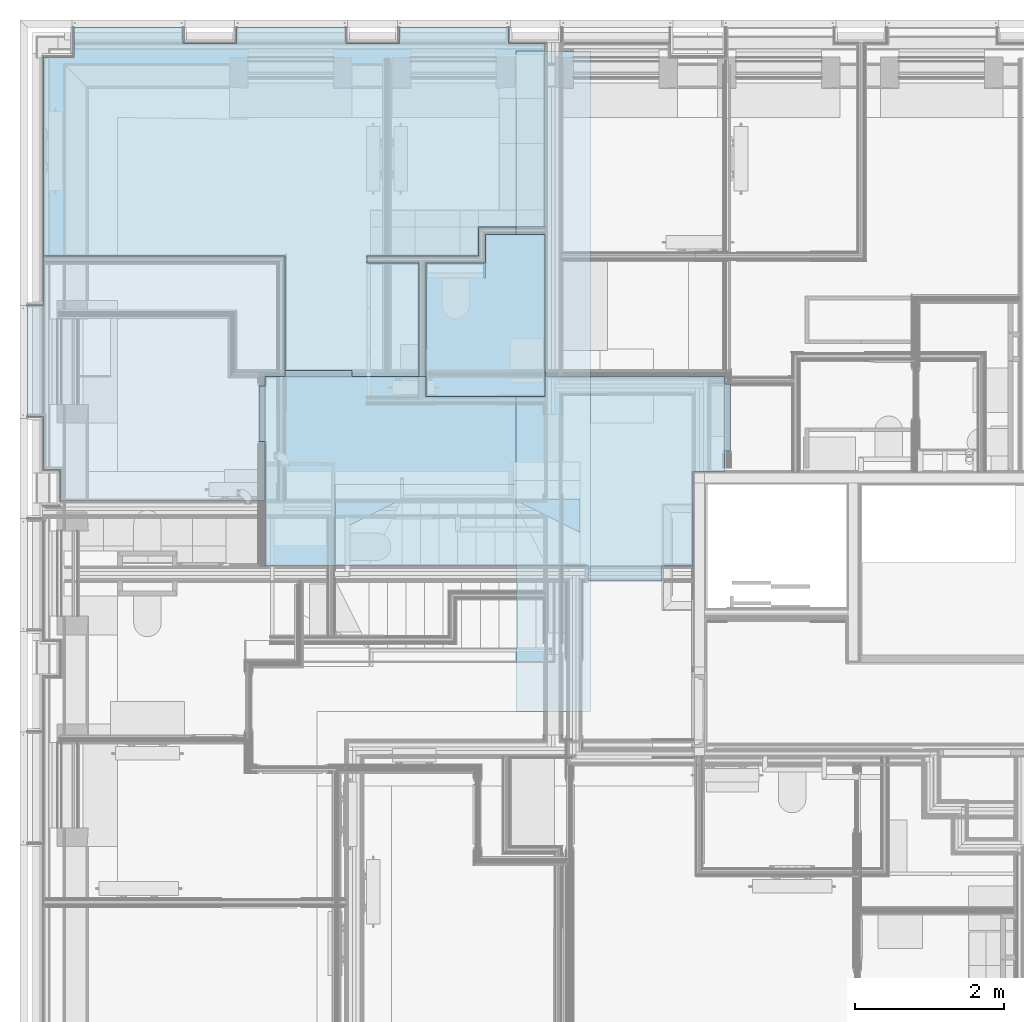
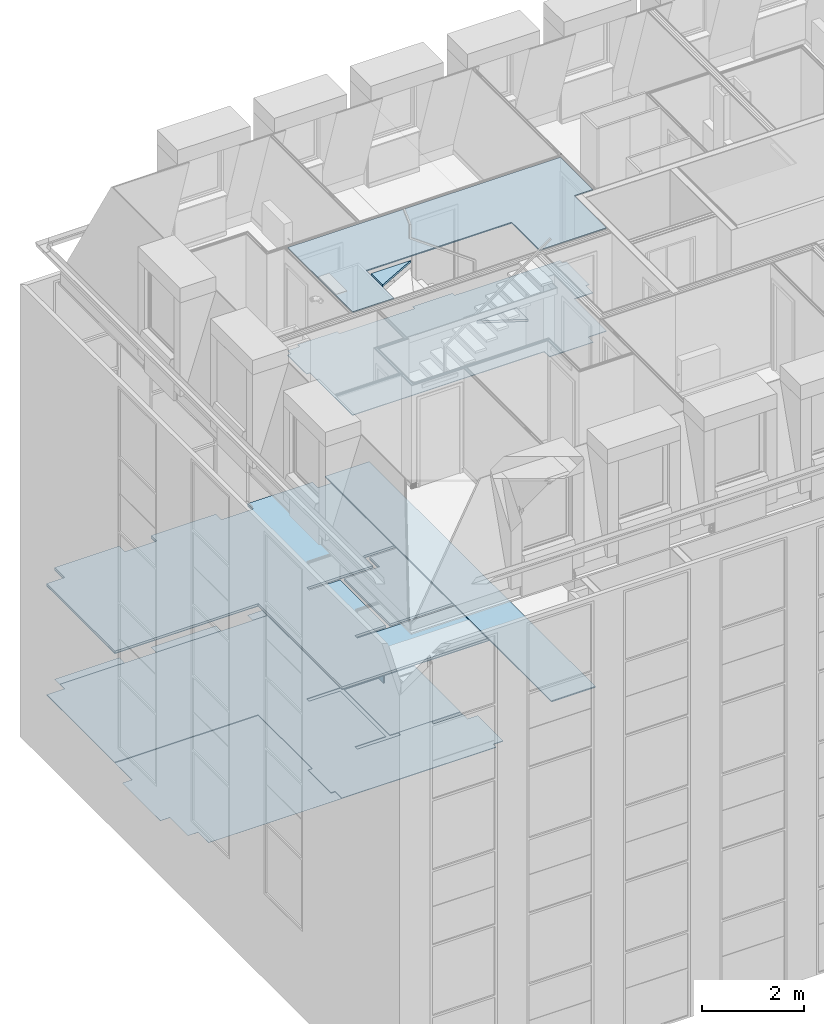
# One storey, part 73 of 169: 16 slabs.
"""IFC2X3 building model written with IfcOpenShell, lengths in metres."""

from ifc_helpers import new_model, entity, si_unit, converted_unit, derived_unit, money_unit, direction, frame, origin_with_axes, place, context, subcontext, project, spatial, faceted_brep, material, type_object, element, save


model = new_model("IFC2X3")

# Units and contexts
model_context = context("Model", 3, precision=1e-05, world=origin_with_axes(), true_north=direction((0.0, 1.0)))
body_context = subcontext(model_context, "Body", "Model", "MODEL_VIEW", scale=1.0)
ifc_project = project(units=[si_unit("LENGTHUNIT", "METRE"), si_unit("AREAUNIT", "SQUARE_METRE"), si_unit("VOLUMEUNIT", "CUBIC_METRE"), si_unit("ABSORBEDDOSEUNIT", "GRAY"), si_unit("AMOUNTOFSUBSTANCEUNIT", "MOLE"), si_unit("DOSEEQUIVALENTUNIT", "SIEVERT"), si_unit("ELECTRICCAPACITANCEUNIT", "FARAD"), si_unit("ELECTRICCHARGEUNIT", "COULOMB"), si_unit("ELECTRICCONDUCTANCEUNIT", "SIEMENS"), si_unit("ELECTRICCURRENTUNIT", "AMPERE"), si_unit("ELECTRICRESISTANCEUNIT", "OHM"), si_unit("ELECTRICVOLTAGEUNIT", "VOLT"), si_unit("ENERGYUNIT", "JOULE"), si_unit("FORCEUNIT", "NEWTON"), si_unit("FREQUENCYUNIT", "HERTZ"), si_unit("ILLUMINANCEUNIT", "LUX"), si_unit("INDUCTANCEUNIT", "HENRY"), si_unit("LUMINOUSFLUXUNIT", "LUMEN"), si_unit("LUMINOUSINTENSITYUNIT", "CANDELA"), si_unit("MAGNETICFLUXDENSITYUNIT", "TESLA"), si_unit("MAGNETICFLUXUNIT", "WEBER"), si_unit("MASSUNIT", "GRAM"), converted_unit("PLANEANGLEUNIT", "degree", entity("IfcReal", 0.0174532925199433), si_unit("PLANEANGLEUNIT", "RADIAN"), dimensions=[0, 0, 0, 0, 0, 0, 0]), si_unit("POWERUNIT", "WATT"), si_unit("PRESSUREUNIT", "PASCAL"), si_unit("RADIOACTIVITYUNIT", "BECQUEREL"), si_unit("SOLIDANGLEUNIT", "STERADIAN"), si_unit("THERMODYNAMICTEMPERATUREUNIT", "KELVIN"), si_unit("TIMEUNIT", "SECOND"), derived_unit("ACCELERATIONUNIT", [(si_unit("LENGTHUNIT", "METRE"), 1), (si_unit("TIMEUNIT", "SECOND"), -2)]), derived_unit("ANGULARVELOCITYUNIT", [(converted_unit("PLANEANGLEUNIT", "degree", entity("IfcReal", 0.0174532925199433), si_unit("PLANEANGLEUNIT", "RADIAN"), dimensions=[0, 0, 0, 0, 0, 0, 0]), 1), (si_unit("TIMEUNIT", "SECOND"), -1)]), derived_unit("CURVATUREUNIT", [(converted_unit("PLANEANGLEUNIT", "degree", entity("IfcReal", 0.0174532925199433), si_unit("PLANEANGLEUNIT", "RADIAN"), dimensions=[0, 0, 0, 0, 0, 0, 0]), 1), (si_unit("LENGTHUNIT", "METRE"), -1)]), derived_unit("DYNAMICVISCOSITYUNIT", [(si_unit("PRESSUREUNIT", "PASCAL"), 1), (si_unit("TIMEUNIT", "SECOND"), 1)]), derived_unit("HEATFLUXDENSITYUNIT", [(si_unit("POWERUNIT", "WATT"), 1), (si_unit("LENGTHUNIT", "METRE"), -2)]), derived_unit("HEATINGVALUEUNIT", [(si_unit("ENERGYUNIT", "JOULE"), 1), (si_unit("MASSUNIT", "GRAM"), -1)]), derived_unit("INTEGERCOUNTRATEUNIT", [(si_unit("TIMEUNIT", "SECOND"), -1)]), derived_unit("IONCONCENTRATIONUNIT", [(si_unit("MASSUNIT", "GRAM"), 1), (si_unit("VOLUMEUNIT", "CUBIC_METRE"), -1)]), derived_unit("ISOTHERMALMOISTURECAPACITYUNIT", [(si_unit("VOLUMEUNIT", "CUBIC_METRE"), 1), (si_unit("MASSUNIT", "GRAM"), -1)]), derived_unit("KINEMATICVISCOSITYUNIT", [(si_unit("AREAUNIT", "SQUARE_METRE"), 1), (si_unit("TIMEUNIT", "SECOND"), -1)]), derived_unit("LINEARFORCEUNIT", [(si_unit("FORCEUNIT", "NEWTON"), 1), (si_unit("LENGTHUNIT", "METRE"), -1)]), derived_unit("LINEARMOMENTUNIT", [(si_unit("FORCEUNIT", "NEWTON"), 1), (si_unit("LENGTHUNIT", "METRE"), -1)]), derived_unit("LINEARSTIFFNESSUNIT", [(si_unit("FORCEUNIT", "NEWTON"), 1), (si_unit("LENGTHUNIT", "METRE"), -1)]), derived_unit("LINEARVELOCITYUNIT", [(si_unit("LENGTHUNIT", "METRE"), 1), (si_unit("TIMEUNIT", "SECOND"), -1)]), derived_unit("LUMINOUSINTENSITYDISTRIBUTIONUNIT", [(si_unit("LUMINOUSINTENSITYUNIT", "CANDELA"), 1), (si_unit("LUMINOUSFLUXUNIT", "LUMEN"), -1)]), derived_unit("MASSDENSITYUNIT", [(si_unit("MASSUNIT", "GRAM"), 1), (si_unit("VOLUMEUNIT", "CUBIC_METRE"), -1)]), derived_unit("MASSFLOWRATEUNIT", [(si_unit("MASSUNIT", "GRAM"), 1), (si_unit("TIMEUNIT", "SECOND"), -1)]), derived_unit("MASSPERLENGTHUNIT", [(si_unit("MASSUNIT", "GRAM"), 1), (si_unit("LENGTHUNIT", "METRE"), -1)]), derived_unit("MODULUSOFELASTICITYUNIT", [(si_unit("FORCEUNIT", "NEWTON"), 1), (si_unit("AREAUNIT", "SQUARE_METRE"), -1)]), derived_unit("MODULUSOFLINEARSUBGRADEREACTIONUNIT", [(si_unit("FORCEUNIT", "NEWTON"), 1), (si_unit("LENGTHUNIT", "METRE"), -2)]), derived_unit("MODULUSOFROTATIONALSUBGRADEREACTIONUNIT", [(si_unit("FORCEUNIT", "NEWTON"), 1), (si_unit("LENGTHUNIT", "METRE"), 1)]), derived_unit("MODULUSOFSUBGRADEREACTIONUNIT", [(si_unit("FORCEUNIT", "NEWTON"), 1), (si_unit("VOLUMEUNIT", "CUBIC_METRE"), -1)]), derived_unit("MOISTUREDIFFUSIVITYUNIT", [(si_unit("VOLUMEUNIT", "CUBIC_METRE"), 1), (si_unit("TIMEUNIT", "SECOND"), -1)]), derived_unit("MOLECULARWEIGHTUNIT", [(si_unit("MASSUNIT", "GRAM"), 1), (si_unit("AMOUNTOFSUBSTANCEUNIT", "MOLE"), -1)]), derived_unit("PLANARFORCEUNIT", [(si_unit("FORCEUNIT", "NEWTON"), 1), (si_unit("LENGTHUNIT", "METRE"), -2)]), derived_unit("ROTATIONALFREQUENCYUNIT", [(si_unit("TIMEUNIT", "SECOND"), -1)]), derived_unit("ROTATIONALMASSUNIT", [(si_unit("MASSUNIT", "GRAM"), 1), (si_unit("LENGTHUNIT", "METRE"), 2)]), derived_unit("ROTATIONALSTIFFNESSUNIT", [(si_unit("FORCEUNIT", "NEWTON"), 1), (si_unit("LENGTHUNIT", "METRE"), 1), (converted_unit("PLANEANGLEUNIT", "degree", entity("IfcReal", 0.0174532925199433), si_unit("PLANEANGLEUNIT", "RADIAN"), dimensions=[0, 0, 0, 0, 0, 0, 0]), -1)]), derived_unit("SECTIONAREAINTEGRALUNIT", [(si_unit("LENGTHUNIT", "METRE"), 5)]), derived_unit("SECTIONMODULUSUNIT", [(si_unit("LENGTHUNIT", "METRE"), 3)]), derived_unit("SHEARMODULUSUNIT", [(si_unit("FORCEUNIT", "NEWTON"), 1), (si_unit("AREAUNIT", "SQUARE_METRE"), -1)]), derived_unit("SOUNDPOWERUNIT", [(si_unit("ENERGYUNIT", "JOULE"), 1), (si_unit("TIMEUNIT", "SECOND"), -1)]), derived_unit("SPECIFICHEATCAPACITYUNIT", [(si_unit("FORCEUNIT", "NEWTON"), 1), (si_unit("MASSUNIT", "GRAM"), -1), (si_unit("THERMODYNAMICTEMPERATUREUNIT", "KELVIN"), -1)]), derived_unit("TEMPERATUREGRADIENTUNIT", [(si_unit("THERMODYNAMICTEMPERATUREUNIT", "KELVIN"), 1), (si_unit("LENGTHUNIT", "METRE"), -1)]), derived_unit("THERMALADMITTANCEUNIT", [(si_unit("POWERUNIT", "WATT"), 1), (si_unit("AREAUNIT", "SQUARE_METRE"), -1), (si_unit("THERMODYNAMICTEMPERATUREUNIT", "KELVIN"), -1)]), derived_unit("THERMALCONDUCTANCEUNIT", [(si_unit("POWERUNIT", "WATT"), 1), (si_unit("LENGTHUNIT", "METRE"), -1), (si_unit("THERMODYNAMICTEMPERATUREUNIT", "KELVIN"), -1)]), derived_unit("THERMALEXPANSIONCOEFFICIENTUNIT", [(si_unit("THERMODYNAMICTEMPERATUREUNIT", "KELVIN"), -1)]), derived_unit("THERMALRESISTANCEUNIT", [(si_unit("AREAUNIT", "SQUARE_METRE"), 1), (si_unit("POWERUNIT", "WATT"), -1)]), derived_unit("THERMALTRANSMITTANCEUNIT", [(si_unit("POWERUNIT", "WATT"), 1), (si_unit("AREAUNIT", "SQUARE_METRE"), -1), (si_unit("THERMODYNAMICTEMPERATUREUNIT", "KELVIN"), -1)]), derived_unit("TORQUEUNIT", [(si_unit("FORCEUNIT", "NEWTON"), 1), (si_unit("LENGTHUNIT", "METRE"), 1)]), derived_unit("VAPORPERMEABILITYUNIT", [(si_unit("MASSUNIT", "GRAM"), 1), (si_unit("TIMEUNIT", "SECOND"), -1)]), derived_unit("VOLUMETRICFLOWRATEUNIT", [(si_unit("VOLUMEUNIT", "CUBIC_METRE"), 1), (si_unit("TIMEUNIT", "SECOND"), -1)]), derived_unit("WARPINGCONSTANTUNIT", [(si_unit("LENGTHUNIT", "METRE"), 6)]), derived_unit("WARPINGMOMENTUNIT", [(si_unit("FORCEUNIT", "NEWTON"), 1), (si_unit("LENGTHUNIT", "METRE"), 2)]), money_unit("GBP")], contexts=[model_context])

# Site, building, storey
site_placement = place(None, origin_with_axes())
site = spatial("IfcSite", under=ifc_project, at=site_placement, Name="Site", CompositionType="ELEMENT")
building_placement = place(site_placement, origin_with_axes())
building = spatial("IfcBuilding", under=site, at=building_placement, Name="Building01", CompositionType="ELEMENT")
storey_placement = place(building_placement, frame((0.0, 0.0, 5.15), z_axis=(0.0, 0.0, 1.0), x_axis=(1.0, 0.0, 0.0)))
storey = spatial("IfcBuildingStorey", under=building, at=storey_placement, Name="1F", CompositionType="ELEMENT", Elevation=5.15)

# Slabs
ifc_material_1 = material(Name="A_BSUK_ExpandedPolystyreneBoards")
slab_type_1 = type_object("IfcSlabType", Name="A-FloorsSlabs A_BSUK_Slabs", PredefinedType="FLOOR")
placement = place(storey_placement, frame((0.0, 0.0, -5.15), z_axis=(0.0, 0.0, 1.0), x_axis=(1.0, 0.0, 0.0)))
element("IfcSlab", 1, at=placement, inside=storey, type_object=slab_type_1, material=ifc_material_1, Name="A-FloorsSlabs A_BSUK_Slabs", ObjectType="CompoundSlabLeaf", context=body_context, shape_type="Brep", body=[
    faceted_brep([(0.725, 14.402, 5.15), (0.725, 14.402, 5.153), (0.725, 14.8, 5.153), (0.725, 14.8, 5.15), (0.318, 14.402, 5.15), (0.318, 14.402, 5.153), (0.318, 11.055, 5.15), (0.318, 11.055, 5.153), (0.1, 11.055, 5.15), (0.1, 11.055, 5.153), (0.1, 9.56218, 5.15), (0.1, 9.56218, 5.153), (0.318, 9.56218, 5.15), (0.318, 9.56218, 5.153), (0.318, 8.848, 5.15), (0.318, 8.848, 5.153), (0.548, 8.848, 5.15), (0.548, 8.848, 5.153), (0.548, 8.43567, 5.15), (0.548, 8.43567, 5.153), (7.064669, 8.43567, 5.15), (7.064669, 8.43567, 5.153), (7.064669, 8.550704, 5.15), (7.064669, 8.550704, 5.153), (7.289669, 8.550704, 5.15), (7.289669, 8.550704, 5.153), (7.289669, 9.550704, 5.15), (7.289669, 9.550704, 5.153), (7.064669, 9.550704, 5.15), (7.064669, 9.550704, 5.153), (7.064669, 14.582, 5.15), (7.064669, 14.582, 5.153), (6.574876, 14.582, 5.15), (6.574876, 14.582, 5.153), (6.574876, 14.8, 5.15), (6.574876, 14.8, 5.153), (5.105, 14.8, 5.15), (5.105, 14.8, 5.153), (5.105, 14.582, 5.15), (5.105, 14.582, 5.153), (4.385, 14.582, 5.15), (4.385, 14.582, 5.153), (4.385, 14.8, 5.15), (4.385, 14.8, 5.153), (2.915, 14.8, 5.15), (2.915, 14.8, 5.153), (2.915, 14.582, 5.15), (2.915, 14.582, 5.153), (2.195, 14.582, 5.15), (2.195, 14.582, 5.153), (2.195, 14.8, 5.15), (2.195, 14.8, 5.153)], [[[0, 1, 2, 3]], [[4, 5, 1, 0]], [[6, 7, 5, 4]], [[8, 9, 7, 6]], [[10, 11, 9, 8]], [[12, 13, 11, 10]], [[14, 15, 13, 12]], [[16, 17, 15, 14]], [[18, 19, 17, 16]], [[20, 21, 19, 18]], [[22, 23, 21, 20]], [[24, 25, 23, 22]], [[26, 27, 25, 24]], [[28, 29, 27, 26]], [[30, 31, 29, 28]], [[32, 33, 31, 30]], [[34, 35, 33, 32]], [[36, 37, 35, 34]], [[38, 39, 37, 36]], [[40, 41, 39, 38]], [[42, 43, 41, 40]], [[44, 45, 43, 42]], [[46, 47, 45, 44]], [[48, 49, 47, 46]], [[50, 51, 49, 48]], [[3, 2, 51, 50]], [[1, 5, 7, 9, 11, 13, 15, 17, 19, 21, 23, 25, 27, 29, 31, 33, 35, 37, 39, 41, 43, 45, 47, 49, 51, 2]], [[3, 50, 48, 46, 44, 42, 40, 38, 36, 34, 32, 30, 28, 26, 24, 22, 20, 18, 16, 14, 12, 10, 8, 6, 4, 0]]]),
])
ifc_material_2 = material(Name="A_BSUK_Parquet_Floor")
element("IfcSlab", 2, at=placement, inside=storey, type_object=slab_type_1, material=ifc_material_2, Name="A-FloorsSlabs A_BSUK_Slabs", ObjectType="CompoundSlabLeaf", context=body_context, shape_type="Brep", body=[
    faceted_brep([(7.289669, 9.550704, 5.153), (7.289669, 9.550704, 5.165), (7.289669, 8.550704, 5.165), (7.289669, 8.550704, 5.153), (7.064669, 9.550704, 5.153), (7.064669, 9.550704, 5.165), (7.064669, 9.73567, 5.153), (7.064669, 9.73567, 5.165), (6.398669, 9.73567, 5.153), (6.398669, 9.73567, 5.165), (6.398669, 9.83067, 5.153), (6.398669, 9.83067, 5.165), (5.648669, 9.83067, 5.153), (5.648669, 9.83067, 5.165), (5.648669, 9.73567, 5.153), (5.648669, 9.73567, 5.165), (4.669669, 9.73567, 5.153), (4.669669, 9.73567, 5.165), (4.669669, 9.83067, 5.153), (4.669669, 9.83067, 5.165), (5.369669, 9.83067, 5.153), (5.369669, 9.83067, 5.165), (5.369669, 11.63067, 5.153), (5.369669, 11.63067, 5.165), (4.669669, 11.63067, 5.153), (4.669669, 11.63067, 5.165), (4.669669, 11.72567, 5.153), (4.669669, 11.72567, 5.165), (4.719669, 11.72567, 5.153), (4.719669, 11.72567, 5.165), (6.169669, 11.72567, 5.153), (6.169669, 11.72567, 5.165), (6.169669, 12.11067, 5.153), (6.169669, 12.11067, 5.165), (7.064669, 12.11067, 5.153), (7.064669, 12.11067, 5.165), (7.064669, 14.582, 5.153), (7.064669, 14.582, 5.165), (6.574876, 14.582, 5.153), (6.574876, 14.582, 5.165), (5.105, 14.582, 5.153), (5.105, 14.582, 5.165), (4.385, 14.582, 5.153), (4.385, 14.582, 5.165), (2.915, 14.582, 5.153), (2.915, 14.582, 5.165), (2.195, 14.582, 5.153), (2.195, 14.582, 5.165), (0.725, 14.582, 5.153), (0.725, 14.582, 5.165), (0.725, 14.402, 5.153), (0.725, 14.402, 5.165), (0.318, 14.402, 5.153), (0.318, 14.402, 5.165), (0.318, 11.72567, 5.153), (0.318, 11.72567, 5.165), (3.569669, 11.72567, 5.153), (3.569669, 11.72567, 5.165), (3.569669, 9.600704, 5.153), (3.569669, 9.600704, 5.165), (3.474669, 9.600704, 5.153), (3.474669, 9.600704, 5.165), (3.474669, 8.700704, 5.153), (3.474669, 8.700704, 5.165), (3.569669, 8.700704, 5.153), (3.569669, 8.700704, 5.165), (3.569669, 8.43567, 5.153), (3.569669, 8.43567, 5.165), (7.064669, 8.43567, 5.153), (7.064669, 8.43567, 5.165), (7.064669, 8.550704, 5.153), (7.064669, 8.550704, 5.165)], [[[0, 1, 2, 3]], [[4, 5, 1, 0]], [[6, 7, 5, 4]], [[8, 9, 7, 6]], [[10, 11, 9, 8]], [[12, 13, 11, 10]], [[14, 15, 13, 12]], [[16, 17, 15, 14]], [[18, 19, 17, 16]], [[20, 21, 19, 18]], [[22, 23, 21, 20]], [[24, 25, 23, 22]], [[26, 27, 25, 24]], [[28, 29, 27, 26]], [[30, 31, 29, 28]], [[32, 33, 31, 30]], [[34, 35, 33, 32]], [[36, 37, 35, 34]], [[38, 39, 37, 36]], [[40, 41, 39, 38]], [[42, 43, 41, 40]], [[44, 45, 43, 42]], [[46, 47, 45, 44]], [[48, 49, 47, 46]], [[50, 51, 49, 48]], [[52, 53, 51, 50]], [[54, 55, 53, 52]], [[56, 57, 55, 54]], [[58, 59, 57, 56]], [[60, 61, 59, 58]], [[62, 63, 61, 60]], [[64, 65, 63, 62]], [[66, 67, 65, 64]], [[68, 69, 67, 66]], [[70, 71, 69, 68]], [[3, 2, 71, 70]], [[1, 5, 7, 9, 11, 13, 15, 17, 19, 21, 23, 25, 27, 29, 31, 33, 35, 37, 39, 41, 43, 45, 47, 49, 51, 53, 55, 57, 59, 61, 63, 65, 67, 69, 71, 2]], [[3, 70, 68, 66, 64, 62, 60, 58, 56, 54, 52, 50, 48, 46, 44, 42, 40, 38, 36, 34, 32, 30, 28, 26, 24, 22, 20, 18, 16, 14, 12, 10, 8, 6, 4, 0]]]),
])
ifc_material_3 = material(Name="A_BSUK_Ceramic_FloorTiles")
element("IfcSlab", 3, at=placement, inside=storey, type_object=slab_type_1, material=ifc_material_3, Name="A-FloorsSlabs A_BSUK_Slabs", ObjectType="CompoundSlabLeaf", context=body_context, shape_type="Brep", body=[
    faceted_brep([(5.464669, 10.53067, 5.153), (5.464669, 10.53067, 5.165), (5.464669, 11.63067, 5.165), (5.464669, 11.63067, 5.153), (5.464669, 9.83067, 5.153), (5.464669, 9.83067, 5.165), (7.064669, 9.83067, 5.153), (7.064669, 9.83067, 5.165), (7.064669, 12.01567, 5.153), (7.064669, 12.01567, 5.165), (6.264669, 12.01567, 5.153), (6.264669, 12.01567, 5.165), (6.264669, 11.63067, 5.153), (6.264669, 11.63067, 5.165)], [[[0, 1, 2, 3]], [[4, 5, 1, 0]], [[6, 7, 5, 4]], [[8, 9, 7, 6]], [[10, 11, 9, 8]], [[12, 13, 11, 10]], [[3, 2, 13, 12]], [[1, 5, 7, 9, 11, 13, 2]], [[3, 12, 10, 8, 6, 4, 0]]]),
])
ifc_material_4 = material(Name="A_BSUK_CeilingSoffitFinishes_Suspended")
element("IfcSlab", 4, at=placement, inside=storey, type_object=slab_type_1, material=ifc_material_4, Name="A-FloorsSlabs A_BSUK_Slabs", ObjectType="CompoundSlabLeaf", context=body_context, shape_type="Brep", body=[
    faceted_brep([(4.669669, 9.73567, 7.765), (4.669669, 9.73567, 7.78), (7.064669, 9.73567, 7.78), (7.064669, 9.73567, 7.765), (4.669669, 9.83067, 7.765), (4.669669, 9.83067, 7.78), (5.369669, 9.83067, 7.765), (5.369669, 9.83067, 7.78), (5.369669, 11.63067, 7.765), (5.369669, 11.63067, 7.78), (4.669669, 11.63067, 7.765), (4.669669, 11.63067, 7.78), (4.669669, 11.72567, 7.765), (4.669669, 11.72567, 7.78), (6.169669, 11.72567, 7.765), (6.169669, 11.72567, 7.78), (6.169669, 12.11067, 7.765), (6.169669, 12.11067, 7.78), (7.064669, 12.11067, 7.765), (7.064669, 12.11067, 7.78), (7.064669, 14.582, 7.765), (7.064669, 14.582, 7.78), (6.574876, 14.582, 7.765), (6.574876, 14.582, 7.78), (6.574876, 14.8, 7.765), (6.574876, 14.8, 7.78), (5.105, 14.8, 7.765), (5.105, 14.8, 7.78), (5.105, 14.582, 7.765), (5.105, 14.582, 7.78), (4.385, 14.582, 7.765), (4.385, 14.582, 7.78), (4.385, 14.8, 7.765), (4.385, 14.8, 7.78), (2.915, 14.8, 7.765), (2.915, 14.8, 7.78), (2.915, 14.582, 7.765), (2.915, 14.582, 7.78), (2.195, 14.582, 7.765), (2.195, 14.582, 7.78), (2.195, 14.8, 7.765), (2.195, 14.8, 7.78), (0.725, 14.8, 7.765), (0.725, 14.8, 7.78), (0.725, 14.402, 7.765), (0.725, 14.402, 7.78), (0.318, 14.402, 7.765), (0.318, 14.402, 7.78), (0.318, 11.72567, 7.765), (0.318, 11.72567, 7.78), (3.569669, 11.72567, 7.765), (3.569669, 11.72567, 7.78), (3.569669, 8.43567, 7.765), (3.569669, 8.43567, 7.78), (7.064669, 8.43567, 7.765), (7.064669, 8.43567, 7.78)], [[[0, 1, 2, 3]], [[4, 5, 1, 0]], [[6, 7, 5, 4]], [[8, 9, 7, 6]], [[10, 11, 9, 8]], [[12, 13, 11, 10]], [[14, 15, 13, 12]], [[16, 17, 15, 14]], [[18, 19, 17, 16]], [[20, 21, 19, 18]], [[22, 23, 21, 20]], [[24, 25, 23, 22]], [[26, 27, 25, 24]], [[28, 29, 27, 26]], [[30, 31, 29, 28]], [[32, 33, 31, 30]], [[34, 35, 33, 32]], [[36, 37, 35, 34]], [[38, 39, 37, 36]], [[40, 41, 39, 38]], [[42, 43, 41, 40]], [[44, 45, 43, 42]], [[46, 47, 45, 44]], [[48, 49, 47, 46]], [[50, 51, 49, 48]], [[52, 53, 51, 50]], [[54, 55, 53, 52]], [[3, 2, 55, 54]], [[1, 5, 7, 9, 11, 13, 15, 17, 19, 21, 23, 25, 27, 29, 31, 33, 35, 37, 39, 41, 43, 45, 47, 49, 51, 53, 55, 2]], [[3, 54, 52, 50, 48, 46, 44, 42, 40, 38, 36, 34, 32, 30, 28, 26, 24, 22, 20, 18, 16, 14, 12, 10, 8, 6, 4, 0]]]),
])
element("IfcSlab", 5, at=placement, inside=storey, type_object=slab_type_1, material=ifc_material_4, Name="A-FloorsSlabs A_BSUK_Slabs", ObjectType="CompoundSlabLeaf", context=body_context, shape_type="Brep", body=[
    faceted_brep([(5.464669, 10.53067, 7.765), (5.464669, 10.53067, 7.78), (5.464669, 11.63067, 7.78), (5.464669, 11.63067, 7.765), (5.464669, 9.83067, 7.765), (5.464669, 9.83067, 7.78), (7.064669, 9.83067, 7.765), (7.064669, 9.83067, 7.78), (7.064669, 12.01567, 7.765), (7.064669, 12.01567, 7.78), (6.264669, 12.01567, 7.765), (6.264669, 12.01567, 7.78), (6.264669, 11.63067, 7.765), (6.264669, 11.63067, 7.78)], [[[0, 1, 2, 3]], [[4, 5, 1, 0]], [[6, 7, 5, 4]], [[8, 9, 7, 6]], [[10, 11, 9, 8]], [[12, 13, 11, 10]], [[3, 2, 13, 12]], [[1, 5, 7, 9, 11, 13, 2]], [[3, 12, 10, 8, 6, 4, 0]]]),
])
ifc_material_5 = material(Name="A_BSUK_Ceramic_WallTiles")
element("IfcSlab", 6, at=placement, inside=storey, type_object=slab_type_1, material=ifc_material_5, Name="A-FloorsSlabs A_BSUK_Slabs", ObjectType="CompoundSlabLeaf", context=body_context, shape_type="Brep", body=[
    faceted_brep([(6.239669, 11.43067, 6.525), (6.264669, 11.43067, 6.525), (6.264669, 11.63067, 6.525), (6.239669, 11.63067, 6.525), (6.239669, 11.430672, 5.15), (6.264669, 11.430672, 5.15), (6.239669, 11.63067, 5.15), (6.264669, 11.63067, 5.15)], [[[0, 1, 2, 3]], [[4, 5, 1, 0]], [[6, 7, 5, 4]], [[3, 2, 7, 6]], [[1, 5, 7, 2]], [[3, 6, 4, 0]]]),
])
element("IfcSlab", 7, at=placement, inside=storey, type_object=slab_type_1, material=ifc_material_4, Name="A-FloorsSlabs A_BSUK_Slabs", ObjectType="CompoundSlabLeaf", context=body_context, shape_type="Brep", body=[
    faceted_brep([(6.677169, 5.593, 8.115), (6.677169, 5.593, 8.13), (6.677169, 14.48, 8.13), (6.677169, 14.48, 8.115), (7.677169, 5.593, 8.115), (7.677169, 5.593, 8.13), (7.677169, 14.48, 8.115), (7.677169, 14.48, 8.13)], [[[0, 1, 2, 3]], [[4, 5, 1, 0]], [[6, 7, 5, 4]], [[3, 2, 7, 6]], [[1, 5, 7, 2]], [[3, 6, 4, 0]]]),
])
element("IfcSlab", 8, at=placement, inside=storey, type_object=slab_type_1, material=ifc_material_4, Name="A-FloorsSlabs A_BSUK_Slabs", ObjectType="CompoundSlabLeaf", context=body_context, shape_type="Brep", body=[
    faceted_brep([(6.677169, 5.593, 8.1), (6.677169, 5.593, 8.115), (6.677169, 14.48, 8.115), (6.677169, 14.48, 8.1), (7.677169, 5.593, 8.1), (7.677169, 5.593, 8.115), (7.677169, 14.48, 8.1), (7.677169, 14.48, 8.115)], [[[0, 1, 2, 3]], [[4, 5, 1, 0]], [[6, 7, 5, 4]], [[3, 2, 7, 6]], [[1, 5, 7, 2]], [[3, 6, 4, 0]]]),
])
element("IfcSlab", 9, at=placement, inside=storey, type_object=slab_type_1, material=ifc_material_4, Name="A-FloorsSlabs A_BSUK_Slabs", ObjectType="CompoundSlabLeaf", context=body_context, shape_type="Brep", body=[
    faceted_brep([(3.3, 8.695061, 17.423), (3.3, 8.695061, 17.438), (3.3, 10.099939, 17.438), (3.3, 10.099939, 17.423), (3.3, 7.550061, 17.423), (3.3, 7.550061, 17.438), (4.24, 7.550061, 17.423), (4.24, 7.550061, 17.438), (4.24, 8.647427, 17.423), (4.24, 8.647427, 17.438), (7.54, 8.647427, 17.423), (7.54, 8.647427, 17.438), (7.54, 7.55, 17.423), (7.54, 7.55, 17.438), (9.06, 7.55, 17.423), (9.06, 7.55, 17.438), (9.06, 8.82, 17.423), (9.06, 8.82, 17.438), (9.480024, 8.82, 17.423), (9.480024, 8.82, 17.438), (9.480024, 10.099939, 17.423), (9.480024, 10.099939, 17.438)], [[[0, 1, 2, 3]], [[4, 5, 1, 0]], [[6, 7, 5, 4]], [[8, 9, 7, 6]], [[10, 11, 9, 8]], [[12, 13, 11, 10]], [[14, 15, 13, 12]], [[16, 17, 15, 14]], [[18, 19, 17, 16]], [[20, 21, 19, 18]], [[3, 2, 21, 20]], [[1, 5, 7, 9, 11, 13, 15, 17, 19, 21, 2]], [[3, 20, 18, 16, 14, 12, 10, 8, 6, 4, 0]]]),
])
element("IfcSlab", 10, at=placement, inside=storey, type_object=slab_type_1, material=ifc_material_1, Name="A-FloorsSlabs A_BSUK_Slabs", ObjectType="CompoundSlabLeaf", context=body_context, shape_type="Brep", body=[
    faceted_brep([(3.3, 9.974939, 14.965), (3.3, 9.974939, 14.968), (3.3, 10.099939, 14.968), (3.3, 10.099939, 14.965), (3.22, 9.974939, 14.965), (3.22, 9.974939, 14.968), (3.22, 9.224939, 14.965), (3.22, 9.224939, 14.968), (3.3, 9.224939, 14.965), (3.3, 9.224939, 14.968), (3.3, 8.695061, 14.965), (3.3, 8.695061, 14.968), (3.3, 7.550061, 14.965), (3.3, 7.550061, 14.968), (4.74, 7.550061, 14.965), (4.74, 7.550061, 14.968), (7.54, 7.550061, 14.965), (7.54, 7.550061, 14.968), (7.54, 7.55, 14.965), (7.54, 7.55, 14.968), (7.644, 7.55, 14.965), (7.644, 7.55, 14.968), (7.644, 7.349939, 14.965), (7.644, 7.349939, 14.968), (8.644, 7.349939, 14.965), (8.644, 7.349939, 14.968), (8.644, 7.55, 14.965), (8.644, 7.55, 14.968), (9.06, 7.55, 14.965), (9.06, 7.55, 14.968), (9.06, 8.82, 14.965), (9.06, 8.82, 14.968), (9.480024, 8.82, 14.965), (9.480024, 8.82, 14.968), (9.480024, 9.099939, 14.965), (9.480024, 9.099939, 14.968), (9.560024, 9.099939, 14.965), (9.560024, 9.099939, 14.968), (9.560024, 9.999939, 14.965), (9.560024, 9.999939, 14.968), (9.480024, 9.999939, 14.965), (9.480024, 9.999939, 14.968), (9.480024, 10.099939, 14.965), (9.480024, 10.099939, 14.968), (8.290024, 10.099939, 14.965), (8.290024, 10.099939, 14.968), (7.390024, 10.099939, 14.965), (7.390024, 10.099939, 14.968), (7.080024, 10.099939, 14.965), (7.080024, 10.099939, 14.968), (7.080024, 10.179939, 14.965), (7.080024, 10.179939, 14.968), (6.180024, 10.179939, 14.965), (6.180024, 10.179939, 14.968), (6.180024, 10.099939, 14.965), (6.180024, 10.099939, 14.968), (4.47, 10.099939, 14.965), (4.47, 10.099939, 14.968), (4.47, 10.179939, 14.965), (4.47, 10.179939, 14.968), (3.57, 10.179939, 14.965), (3.57, 10.179939, 14.968), (3.57, 10.099939, 14.965), (3.57, 10.099939, 14.968)], [[[0, 1, 2, 3]], [[4, 5, 1, 0]], [[6, 7, 5, 4]], [[8, 9, 7, 6]], [[10, 11, 9, 8]], [[12, 13, 11, 10]], [[14, 15, 13, 12]], [[16, 17, 15, 14]], [[18, 19, 17, 16]], [[20, 21, 19, 18]], [[22, 23, 21, 20]], [[24, 25, 23, 22]], [[26, 27, 25, 24]], [[28, 29, 27, 26]], [[30, 31, 29, 28]], [[32, 33, 31, 30]], [[34, 35, 33, 32]], [[36, 37, 35, 34]], [[38, 39, 37, 36]], [[40, 41, 39, 38]], [[42, 43, 41, 40]], [[44, 45, 43, 42]], [[46, 47, 45, 44]], [[48, 49, 47, 46]], [[50, 51, 49, 48]], [[52, 53, 51, 50]], [[54, 55, 53, 52]], [[56, 57, 55, 54]], [[58, 59, 57, 56]], [[60, 61, 59, 58]], [[62, 63, 61, 60]], [[3, 2, 63, 62]], [[1, 5, 7, 9, 11, 13, 15, 17, 19, 21, 23, 25, 27, 29, 31, 33, 35, 37, 39, 41, 43, 45, 47, 49, 51, 53, 55, 57, 59, 61, 63, 2]], [[3, 62, 60, 58, 56, 54, 52, 50, 48, 46, 44, 42, 40, 38, 36, 34, 32, 30, 28, 26, 24, 22, 20, 18, 16, 14, 12, 10, 8, 6, 4, 0]]]),
])
element("IfcSlab", 11, at=placement, inside=storey, type_object=slab_type_1, material=ifc_material_4, Name="A-FloorsSlabs A_BSUK_Slabs", ObjectType="CompoundSlabLeaf", context=body_context, shape_type="Brep", body=[
    faceted_brep([(3.3, 8.695061, 17.438), (3.3, 8.695061, 17.453), (3.3, 10.099939, 17.453), (3.3, 10.099939, 17.438), (3.3, 7.550061, 17.438), (3.3, 7.550061, 17.453), (4.24, 7.550061, 17.438), (4.24, 7.550061, 17.453), (4.24, 8.647427, 17.438), (4.24, 8.647427, 17.453), (7.54, 8.647427, 17.438), (7.54, 8.647427, 17.453), (7.54, 7.55, 17.438), (7.54, 7.55, 17.453), (9.06, 7.55, 17.438), (9.06, 7.55, 17.453), (9.06, 8.82, 17.438), (9.06, 8.82, 17.453), (9.480024, 8.82, 17.438), (9.480024, 8.82, 17.453), (9.480024, 10.099939, 17.438), (9.480024, 10.099939, 17.453)], [[[0, 1, 2, 3]], [[4, 5, 1, 0]], [[6, 7, 5, 4]], [[8, 9, 7, 6]], [[10, 11, 9, 8]], [[12, 13, 11, 10]], [[14, 15, 13, 12]], [[16, 17, 15, 14]], [[18, 19, 17, 16]], [[20, 21, 19, 18]], [[3, 2, 21, 20]], [[1, 5, 7, 9, 11, 13, 15, 17, 19, 21, 2]], [[3, 20, 18, 16, 14, 12, 10, 8, 6, 4, 0]]]),
])
ifc_material_6 = material(Name="A_BSUK_Slabs")
element("IfcSlab", 12, at=placement, inside=storey, type_object=slab_type_1, material=ifc_material_6, Name="A-FloorsSlabs A_BSUK_Slabs", ObjectType="CompoundSlabLeaf", context=body_context, shape_type="Brep", body=[
    faceted_brep([(7.54, 7.999939, 15.47), (7.54, 7.999939, 15.52), (6.64, 8.449939, 15.52), (6.64, 8.449939, 15.47), (7.54, 8.449939, 15.47), (7.54, 8.449939, 15.52)], [[[0, 1, 2, 3]], [[4, 5, 1, 0]], [[3, 2, 5, 4]], [[1, 5, 2]], [[3, 4, 0]]]),
])
element("IfcSlab", 13, at=placement, inside=storey, type_object=slab_type_1, material=ifc_material_6, Name="A-FloorsSlabs A_BSUK_Slabs", ObjectType="CompoundSlabLeaf", context=body_context, shape_type="Brep", body=[
    faceted_brep([(4.24, 8.449939, 17.45), (4.24, 8.449939, 17.5), (5.14, 8.449939, 17.5), (5.14, 8.449939, 17.45), (4.24, 7.999939, 17.45), (4.24, 7.999939, 17.5)], [[[0, 1, 2, 3]], [[4, 5, 1, 0]], [[3, 2, 5, 4]], [[1, 5, 2]], [[3, 4, 0]]]),
])
slab_type_2 = type_object("IfcSlabType", Name="A-FloorsSlabs A_BSUK_ExpandedPolystyreneBoards", PredefinedType="FLOOR")
element("IfcSlab", 14, at=placement, inside=storey, type_object=slab_type_2, material=ifc_material_1, Name="A-FloorsSlabs A_BSUK_ExpandedPolystyreneBoards", ObjectType="CompoundSlabLeaf", context=body_context, shape_type="Brep", body=[
    faceted_brep([(4.669669, 9.73567, 7.78), (4.669669, 9.73567, 7.83), (7.064669, 9.73567, 7.83), (7.064669, 9.73567, 7.78), (4.669669, 9.83067, 7.78), (4.669669, 9.83067, 7.83), (5.369669, 9.83067, 7.78), (5.369669, 9.83067, 7.83), (5.369669, 11.63067, 7.78), (5.369669, 11.63067, 7.83), (4.669669, 11.63067, 7.78), (4.669669, 11.63067, 7.83), (4.669669, 11.72567, 7.78), (4.669669, 11.72567, 7.83), (6.169669, 11.72567, 7.78), (6.169669, 11.72567, 7.83), (6.169669, 12.11067, 7.78), (6.169669, 12.11067, 7.83), (7.064669, 12.11067, 7.78), (7.064669, 12.11067, 7.83), (7.064669, 14.582, 7.78), (7.064669, 14.582, 7.83), (6.574876, 14.582, 7.78), (6.574876, 14.582, 7.83), (6.574876, 14.8, 7.78), (6.574876, 14.8, 7.83), (5.105, 14.8, 7.78), (5.105, 14.8, 7.83), (5.105, 14.582, 7.78), (5.105, 14.582, 7.83), (4.385, 14.582, 7.78), (4.385, 14.582, 7.83), (4.385, 14.8, 7.78), (4.385, 14.8, 7.83), (2.915, 14.8, 7.78), (2.915, 14.8, 7.83), (2.915, 14.582, 7.78), (2.915, 14.582, 7.83), (2.195, 14.582, 7.78), (2.195, 14.582, 7.83), (2.195, 14.8, 7.78), (2.195, 14.8, 7.83), (0.725, 14.8, 7.78), (0.725, 14.8, 7.83), (0.725, 14.402, 7.78), (0.725, 14.402, 7.83), (0.318, 14.402, 7.78), (0.318, 14.402, 7.83), (0.318, 11.72567, 7.78), (0.318, 11.72567, 7.83), (3.569669, 11.72567, 7.78), (3.569669, 11.72567, 7.83), (3.569669, 8.43567, 7.78), (3.569669, 8.43567, 7.83), (7.064669, 8.43567, 7.78), (7.064669, 8.43567, 7.83)], [[[0, 1, 2, 3]], [[4, 5, 1, 0]], [[6, 7, 5, 4]], [[8, 9, 7, 6]], [[10, 11, 9, 8]], [[12, 13, 11, 10]], [[14, 15, 13, 12]], [[16, 17, 15, 14]], [[18, 19, 17, 16]], [[20, 21, 19, 18]], [[22, 23, 21, 20]], [[24, 25, 23, 22]], [[26, 27, 25, 24]], [[28, 29, 27, 26]], [[30, 31, 29, 28]], [[32, 33, 31, 30]], [[34, 35, 33, 32]], [[36, 37, 35, 34]], [[38, 39, 37, 36]], [[40, 41, 39, 38]], [[42, 43, 41, 40]], [[44, 45, 43, 42]], [[46, 47, 45, 44]], [[48, 49, 47, 46]], [[50, 51, 49, 48]], [[52, 53, 51, 50]], [[54, 55, 53, 52]], [[3, 2, 55, 54]], [[1, 5, 7, 9, 11, 13, 15, 17, 19, 21, 23, 25, 27, 29, 31, 33, 35, 37, 39, 41, 43, 45, 47, 49, 51, 53, 55, 2]], [[3, 54, 52, 50, 48, 46, 44, 42, 40, 38, 36, 34, 32, 30, 28, 26, 24, 22, 20, 18, 16, 14, 12, 10, 8, 6, 4, 0]]]),
])
element("IfcSlab", 15, at=placement, inside=storey, type_object=slab_type_2, material=ifc_material_1, Name="A-FloorsSlabs A_BSUK_ExpandedPolystyreneBoards", ObjectType="CompoundSlabLeaf", context=body_context, shape_type="Brep", body=[
    faceted_brep([(5.464669, 10.53067, 7.78), (5.464669, 10.53067, 7.83), (5.464669, 11.63067, 7.83), (5.464669, 11.63067, 7.78), (5.464669, 9.83067, 7.78), (5.464669, 9.83067, 7.83), (7.064669, 9.83067, 7.78), (7.064669, 9.83067, 7.83), (7.064669, 12.01567, 7.78), (7.064669, 12.01567, 7.83), (6.264669, 12.01567, 7.78), (6.264669, 12.01567, 7.83), (6.264669, 11.63067, 7.78), (6.264669, 11.63067, 7.83)], [[[0, 1, 2, 3]], [[4, 5, 1, 0]], [[6, 7, 5, 4]], [[8, 9, 7, 6]], [[10, 11, 9, 8]], [[12, 13, 11, 10]], [[3, 2, 13, 12]], [[1, 5, 7, 9, 11, 13, 2]], [[3, 12, 10, 8, 6, 4, 0]]]),
])
ifc_material_7 = material(Name="A_BSUK_InternalFinishes_FloorScreed")
slab_type_3 = type_object("IfcSlabType", Name="A-FloorsSlabs A_BSUK_InternalFinishes_FloorScreed", PredefinedType="FLOOR")
element("IfcSlab", 16, at=placement, inside=storey, type_object=slab_type_3, material=ifc_material_7, Name="A-FloorsSlabs A_BSUK_InternalFinishes_FloorScreed", ObjectType="CompoundSlabLeaf", context=body_context, shape_type="Brep", body=[
    faceted_brep([(3.3, 9.974939, 14.968), (3.3, 9.974939, 14.98), (3.3, 10.099939, 14.98), (3.3, 10.099939, 14.968), (3.22, 9.974939, 14.968), (3.22, 9.974939, 14.98), (3.22, 9.224939, 14.968), (3.22, 9.224939, 14.98), (3.3, 9.224939, 14.968), (3.3, 9.224939, 14.98), (3.3, 8.695061, 14.968), (3.3, 8.695061, 14.98), (3.3, 7.550061, 14.968), (3.3, 7.550061, 14.98), (4.74, 7.550061, 14.968), (4.74, 7.550061, 14.98), (7.54, 7.550061, 14.968), (7.54, 7.550061, 14.98), (7.54, 7.55, 14.968), (7.54, 7.55, 14.98), (7.644, 7.55, 14.968), (7.644, 7.55, 14.98), (7.644, 7.349939, 14.968), (7.644, 7.349939, 14.98), (8.644, 7.349939, 14.968), (8.644, 7.349939, 14.98), (8.644, 7.55, 14.968), (8.644, 7.55, 14.98), (9.06, 7.55, 14.968), (9.06, 7.55, 14.98), (9.06, 8.82, 14.968), (9.06, 8.82, 14.98), (9.480024, 8.82, 14.968), (9.480024, 8.82, 14.98), (9.480024, 9.099939, 14.968), (9.480024, 9.099939, 14.98), (9.560024, 9.099939, 14.968), (9.560024, 9.099939, 14.98), (9.560024, 9.999939, 14.968), (9.560024, 9.999939, 14.98), (9.480024, 9.999939, 14.968), (9.480024, 9.999939, 14.98), (9.480024, 10.099939, 14.968), (9.480024, 10.099939, 14.98), (8.290024, 10.099939, 14.968), (8.290024, 10.099939, 14.98), (7.390024, 10.099939, 14.968), (7.390024, 10.099939, 14.98), (7.080024, 10.099939, 14.968), (7.080024, 10.099939, 14.98), (7.080024, 10.179939, 14.968), (7.080024, 10.179939, 14.98), (6.180024, 10.179939, 14.968), (6.180024, 10.179939, 14.98), (6.180024, 10.099939, 14.968), (6.180024, 10.099939, 14.98), (4.47, 10.099939, 14.968), (4.47, 10.099939, 14.98), (4.47, 10.179939, 14.968), (4.47, 10.179939, 14.98), (3.57, 10.179939, 14.968), (3.57, 10.179939, 14.98), (3.57, 10.099939, 14.968), (3.57, 10.099939, 14.98)], [[[0, 1, 2, 3]], [[4, 5, 1, 0]], [[6, 7, 5, 4]], [[8, 9, 7, 6]], [[10, 11, 9, 8]], [[12, 13, 11, 10]], [[14, 15, 13, 12]], [[16, 17, 15, 14]], [[18, 19, 17, 16]], [[20, 21, 19, 18]], [[22, 23, 21, 20]], [[24, 25, 23, 22]], [[26, 27, 25, 24]], [[28, 29, 27, 26]], [[30, 31, 29, 28]], [[32, 33, 31, 30]], [[34, 35, 33, 32]], [[36, 37, 35, 34]], [[38, 39, 37, 36]], [[40, 41, 39, 38]], [[42, 43, 41, 40]], [[44, 45, 43, 42]], [[46, 47, 45, 44]], [[48, 49, 47, 46]], [[50, 51, 49, 48]], [[52, 53, 51, 50]], [[54, 55, 53, 52]], [[56, 57, 55, 54]], [[58, 59, 57, 56]], [[60, 61, 59, 58]], [[62, 63, 61, 60]], [[3, 2, 63, 62]], [[1, 5, 7, 9, 11, 13, 15, 17, 19, 21, 23, 25, 27, 29, 31, 33, 35, 37, 39, 41, 43, 45, 47, 49, 51, 53, 55, 57, 59, 61, 63, 2]], [[3, 62, 60, 58, 56, 54, 52, 50, 48, 46, 44, 42, 40, 38, 36, 34, 32, 30, 28, 26, 24, 22, 20, 18, 16, 14, 12, 10, 8, 6, 4, 0]]]),
])

save(model, "model.ifc")
